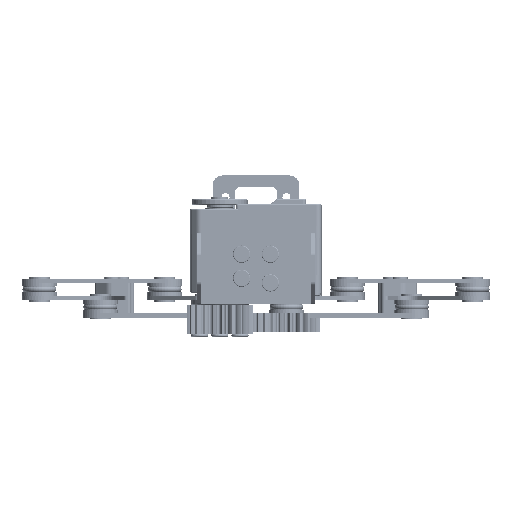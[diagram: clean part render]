
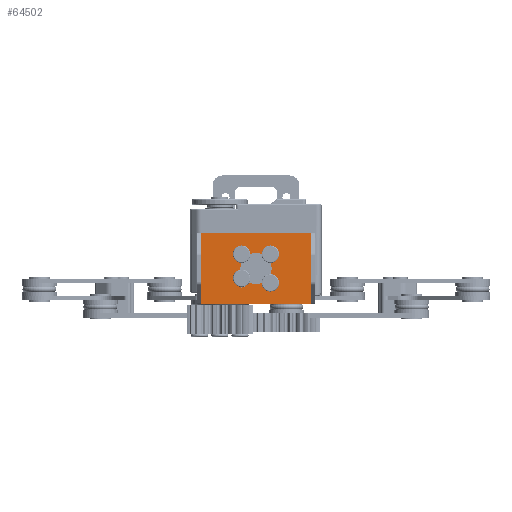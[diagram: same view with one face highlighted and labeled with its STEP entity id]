
A CAD part, front view. The second image highlights one B-rep face of the part: STEP entity #64502.
In plain terms, the highlighted planar face has unit normal (0, -1, 0) as drawn and (0, 0, -1) by its records, which use the part's own axes.
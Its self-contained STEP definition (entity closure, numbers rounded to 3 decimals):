
#855=FACE_BOUND('',#15585,.T.);
#4721=CIRCLE('',#71765,5.4);
#4722=CIRCLE('',#71766,0.36);
#4723=CIRCLE('',#71767,1.6);
#4724=CIRCLE('',#71768,0.36);
#4725=CIRCLE('',#71769,5.4);
#4726=CIRCLE('',#71770,0.36);
#4727=CIRCLE('',#71771,1.6);
#4728=CIRCLE('',#71772,0.36);
#4729=CIRCLE('',#71773,5.4);
#4730=CIRCLE('',#71774,0.36);
#4731=CIRCLE('',#71775,1.6);
#4732=CIRCLE('',#71776,0.36);
#4733=CIRCLE('',#71777,5.4);
#4734=CIRCLE('',#71778,0.36);
#4735=CIRCLE('',#71779,1.6);
#4736=CIRCLE('',#71780,0.36);
#11963=FACE_OUTER_BOUND('',#15584,.T.);
#15584=EDGE_LOOP('',(#59746,#59747,#59748,#59749));
#15585=EDGE_LOOP('',(#59750,#59751,#59752,#59753,#59754,#59755,#59756,#59757,
#59758,#59759,#59760,#59761,#59762,#59763,#59764,#59765));
#19921=LINE('',#184101,#24315);
#19924=LINE('',#184107,#24318);
#19925=LINE('',#184109,#24319);
#19926=LINE('',#184110,#24320);
#24315=VECTOR('',#89969,10.);
#24318=VECTOR('',#89974,10.);
#24319=VECTOR('',#89975,10.);
#24320=VECTOR('',#89976,10.);
#30761=VERTEX_POINT('',#183999);
#30808=VERTEX_POINT('',#184100);
#30810=VERTEX_POINT('',#184106);
#30811=VERTEX_POINT('',#184108);
#30812=VERTEX_POINT('',#184111);
#30813=VERTEX_POINT('',#184112);
#30814=VERTEX_POINT('',#184114);
#30815=VERTEX_POINT('',#184116);
#30816=VERTEX_POINT('',#184118);
#30817=VERTEX_POINT('',#184120);
#30818=VERTEX_POINT('',#184122);
#30819=VERTEX_POINT('',#184124);
#30820=VERTEX_POINT('',#184126);
#30821=VERTEX_POINT('',#184128);
#30822=VERTEX_POINT('',#184130);
#30823=VERTEX_POINT('',#184132);
#30824=VERTEX_POINT('',#184134);
#30825=VERTEX_POINT('',#184136);
#30826=VERTEX_POINT('',#184138);
#30827=VERTEX_POINT('',#184140);
#40490=EDGE_CURVE('',#30761,#30808,#19921,.T.);
#40493=EDGE_CURVE('',#30810,#30761,#19924,.T.);
#40494=EDGE_CURVE('',#30811,#30810,#19925,.T.);
#40495=EDGE_CURVE('',#30808,#30811,#19926,.T.);
#40496=EDGE_CURVE('',#30812,#30813,#4721,.T.);
#40497=EDGE_CURVE('',#30814,#30812,#4722,.T.);
#40498=EDGE_CURVE('',#30815,#30814,#4723,.T.);
#40499=EDGE_CURVE('',#30816,#30815,#4724,.T.);
#40500=EDGE_CURVE('',#30817,#30816,#4725,.T.);
#40501=EDGE_CURVE('',#30818,#30817,#4726,.T.);
#40502=EDGE_CURVE('',#30819,#30818,#4727,.T.);
#40503=EDGE_CURVE('',#30820,#30819,#4728,.T.);
#40504=EDGE_CURVE('',#30821,#30820,#4729,.T.);
#40505=EDGE_CURVE('',#30822,#30821,#4730,.T.);
#40506=EDGE_CURVE('',#30823,#30822,#4731,.T.);
#40507=EDGE_CURVE('',#30824,#30823,#4732,.T.);
#40508=EDGE_CURVE('',#30825,#30824,#4733,.T.);
#40509=EDGE_CURVE('',#30826,#30825,#4734,.T.);
#40510=EDGE_CURVE('',#30827,#30826,#4735,.T.);
#40511=EDGE_CURVE('',#30813,#30827,#4736,.T.);
#59746=ORIENTED_EDGE('',*,*,#40493,.F.);
#59747=ORIENTED_EDGE('',*,*,#40494,.F.);
#59748=ORIENTED_EDGE('',*,*,#40495,.F.);
#59749=ORIENTED_EDGE('',*,*,#40490,.F.);
#59750=ORIENTED_EDGE('',*,*,#40496,.F.);
#59751=ORIENTED_EDGE('',*,*,#40497,.F.);
#59752=ORIENTED_EDGE('',*,*,#40498,.F.);
#59753=ORIENTED_EDGE('',*,*,#40499,.F.);
#59754=ORIENTED_EDGE('',*,*,#40500,.F.);
#59755=ORIENTED_EDGE('',*,*,#40501,.F.);
#59756=ORIENTED_EDGE('',*,*,#40502,.F.);
#59757=ORIENTED_EDGE('',*,*,#40503,.F.);
#59758=ORIENTED_EDGE('',*,*,#40504,.F.);
#59759=ORIENTED_EDGE('',*,*,#40505,.F.);
#59760=ORIENTED_EDGE('',*,*,#40506,.F.);
#59761=ORIENTED_EDGE('',*,*,#40507,.F.);
#59762=ORIENTED_EDGE('',*,*,#40508,.F.);
#59763=ORIENTED_EDGE('',*,*,#40509,.F.);
#59764=ORIENTED_EDGE('',*,*,#40510,.F.);
#59765=ORIENTED_EDGE('',*,*,#40511,.F.);
#61138=PLANE('',#71764);
#64502=ADVANCED_FACE('',(#11963,#855),#61138,.F.);
#71764=AXIS2_PLACEMENT_3D('',#184105,#89972,#89973);
#71765=AXIS2_PLACEMENT_3D('',#184113,#89977,#89978);
#71766=AXIS2_PLACEMENT_3D('',#184115,#89979,#89980);
#71767=AXIS2_PLACEMENT_3D('',#184117,#89981,#89982);
#71768=AXIS2_PLACEMENT_3D('',#184119,#89983,#89984);
#71769=AXIS2_PLACEMENT_3D('',#184121,#89985,#89986);
#71770=AXIS2_PLACEMENT_3D('',#184123,#89987,#89988);
#71771=AXIS2_PLACEMENT_3D('',#184125,#89989,#89990);
#71772=AXIS2_PLACEMENT_3D('',#184127,#89991,#89992);
#71773=AXIS2_PLACEMENT_3D('',#184129,#89993,#89994);
#71774=AXIS2_PLACEMENT_3D('',#184131,#89995,#89996);
#71775=AXIS2_PLACEMENT_3D('',#184133,#89997,#89998);
#71776=AXIS2_PLACEMENT_3D('',#184135,#89999,#90000);
#71777=AXIS2_PLACEMENT_3D('',#184137,#90001,#90002);
#71778=AXIS2_PLACEMENT_3D('',#184139,#90003,#90004);
#71779=AXIS2_PLACEMENT_3D('',#184141,#90005,#90006);
#71780=AXIS2_PLACEMENT_3D('',#184142,#90007,#90008);
#89969=DIRECTION('',(-1.,0.,0.));
#89972=DIRECTION('center_axis',(0.,0.,1.));
#89973=DIRECTION('ref_axis',(1.,0.,0.));
#89974=DIRECTION('',(0.,1.,0.));
#89975=DIRECTION('',(1.,0.,0.));
#89976=DIRECTION('',(0.,-1.,0.));
#89977=DIRECTION('center_axis',(0.,0.,-1.));
#89978=DIRECTION('ref_axis',(-0.519,-0.855,0.));
#89979=DIRECTION('center_axis',(0.,0.,1.));
#89980=DIRECTION('ref_axis',(1.,-0.014,0.));
#89981=DIRECTION('center_axis',(0.,0.,-1.));
#89982=DIRECTION('ref_axis',(-1.,0.014,0.));
#89983=DIRECTION('center_axis',(0.,0.,1.));
#89984=DIRECTION('ref_axis',(-0.855,0.519,0.));
#89985=DIRECTION('center_axis',(0.,0.,-1.));
#89986=DIRECTION('ref_axis',(0.855,-0.519,0.));
#89987=DIRECTION('center_axis',(0.,0.,1.));
#89988=DIRECTION('ref_axis',(0.014,1.,0.));
#89989=DIRECTION('center_axis',(0.,0.,-1.));
#89990=DIRECTION('ref_axis',(-0.014,-1.,0.));
#89991=DIRECTION('center_axis',(0.,0.,1.));
#89992=DIRECTION('ref_axis',(-0.519,-0.855,0.));
#89993=DIRECTION('center_axis',(0.,0.,-1.));
#89994=DIRECTION('ref_axis',(0.519,0.855,0.));
#89995=DIRECTION('center_axis',(0.,0.,1.));
#89996=DIRECTION('ref_axis',(-1.,0.014,0.));
#89997=DIRECTION('center_axis',(0.,0.,-1.));
#89998=DIRECTION('ref_axis',(1.,-0.014,0.));
#89999=DIRECTION('center_axis',(0.,0.,1.));
#90000=DIRECTION('ref_axis',(0.855,-0.519,0.));
#90001=DIRECTION('center_axis',(0.,0.,-1.));
#90002=DIRECTION('ref_axis',(-0.855,0.519,0.));
#90003=DIRECTION('center_axis',(0.,0.,1.));
#90004=DIRECTION('ref_axis',(-0.014,-1.,0.));
#90005=DIRECTION('center_axis',(0.,0.,-1.));
#90006=DIRECTION('ref_axis',(0.014,1.,0.));
#90007=DIRECTION('center_axis',(0.,0.,1.));
#90008=DIRECTION('ref_axis',(0.519,0.855,0.));
#183999=CARTESIAN_POINT('',(-164.379,81.9,0.));
#184100=CARTESIAN_POINT('',(-202.379,81.9,0.));
#184101=CARTESIAN_POINT('',(-136.932,81.9,0.));
#184105=CARTESIAN_POINT('Origin',(-183.379,69.52,0.));
#184106=CARTESIAN_POINT('',(-164.379,57.14,0.));
#184107=CARTESIAN_POINT('',(-164.379,34.76,0.));
#184108=CARTESIAN_POINT('',(-202.379,57.14,0.));
#184109=CARTESIAN_POINT('',(-229.826,57.14,0.));
#184110=CARTESIAN_POINT('',(-202.379,34.76,0.));
#184111=CARTESIAN_POINT('',(-180.576,64.904,0.));
#184112=CARTESIAN_POINT('',(-186.182,64.904,0.));
#184113=CARTESIAN_POINT('Origin',(-183.379,69.52,0.));
#184114=CARTESIAN_POINT('',(-180.029,64.592,0.));
#184115=CARTESIAN_POINT('Origin',(-180.389,64.596,0.));
#184116=CARTESIAN_POINT('',(-178.451,66.17,0.));
#184117=CARTESIAN_POINT('Origin',(-178.429,64.57,0.));
#184118=CARTESIAN_POINT('',(-178.763,66.717,0.));
#184119=CARTESIAN_POINT('Origin',(-178.456,66.53,0.));
#184120=CARTESIAN_POINT('',(-178.763,72.323,0.));
#184121=CARTESIAN_POINT('Origin',(-183.379,69.52,0.));
#184122=CARTESIAN_POINT('',(-178.451,72.869,0.));
#184123=CARTESIAN_POINT('Origin',(-178.456,72.51,0.));
#184124=CARTESIAN_POINT('',(-180.029,74.448,0.));
#184125=CARTESIAN_POINT('Origin',(-178.429,74.469,0.));
#184126=CARTESIAN_POINT('',(-180.576,74.135,0.));
#184127=CARTESIAN_POINT('Origin',(-180.389,74.443,0.));
#184128=CARTESIAN_POINT('',(-186.182,74.135,0.));
#184129=CARTESIAN_POINT('Origin',(-183.379,69.52,0.));
#184130=CARTESIAN_POINT('',(-186.729,74.448,0.));
#184131=CARTESIAN_POINT('Origin',(-186.369,74.443,0.));
#184132=CARTESIAN_POINT('',(-188.307,72.869,0.));
#184133=CARTESIAN_POINT('Origin',(-188.329,74.469,0.));
#184134=CARTESIAN_POINT('',(-187.994,72.323,0.));
#184135=CARTESIAN_POINT('Origin',(-188.302,72.51,0.));
#184136=CARTESIAN_POINT('',(-187.994,66.717,0.));
#184137=CARTESIAN_POINT('Origin',(-183.379,69.52,0.));
#184138=CARTESIAN_POINT('',(-188.307,66.17,0.));
#184139=CARTESIAN_POINT('Origin',(-188.302,66.53,0.));
#184140=CARTESIAN_POINT('',(-186.729,64.592,0.));
#184141=CARTESIAN_POINT('Origin',(-188.329,64.57,0.));
#184142=CARTESIAN_POINT('Origin',(-186.369,64.596,0.));
